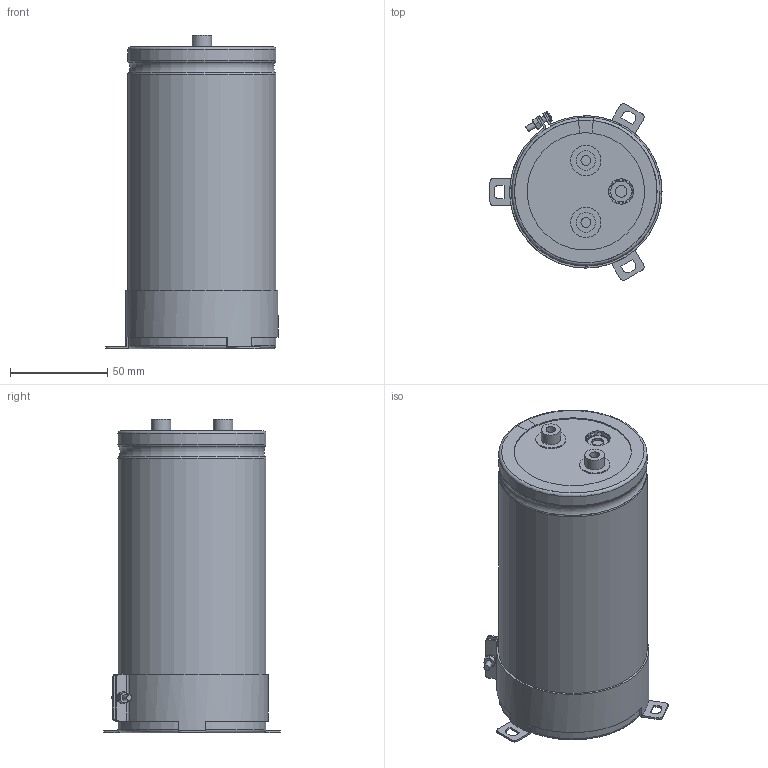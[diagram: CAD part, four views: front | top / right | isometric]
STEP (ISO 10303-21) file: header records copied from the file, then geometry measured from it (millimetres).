
FILE_DESCRIPTION(/* description */ (''),/* implementation_level */ '2;1');
FILE_NAME(/* name */ '76.2x155_Screw.stp',/* time_stamp */ '2017-09-17T13:34:47+09:00',/* author */ (''),/* organization */ (''),/* preprocessor_version */ 'ST-DEVELOPER v16',/* originating_system */ 'SIEMENS PLM Software NX 11.0',/* authorisation */ '');
FILE_SCHEMA (('AUTOMOTIVE_DESIGN { 1 0 10303 214 3 1 1 1 }'));
Length unit declared in the file: millimetre
Products named in the file (1): 76.2x155_Screw
Bounding box: 88.3 x 90.75 x 161 mm (x, y, z)
Volume: 709243.5 mm3; surface area: 141219.7 mm2
Topology: 9 solids, 9 shells, 259 faces, 642 edges, 413 vertices
Faces by surface type: plane 112, cylinder 66, torus 49, cone 31, sphere 1
Full cylindrical faces by diameter (mm): 3 x5, 5 x2, 5.5 x2, 6 x4, 8 x1, 10 x2, 13 x2, 15.5 x2, 75 x2
Entity records: 8534 total; most frequent: CARTESIAN_POINT 2182, DIRECTION 1296, ORIENTED_EDGE 1214, EDGE_CURVE 607, AXIS2_PLACEMENT_3D 541, VERTEX_POINT 408, EDGE_LOOP 317, CIRCLE 281
